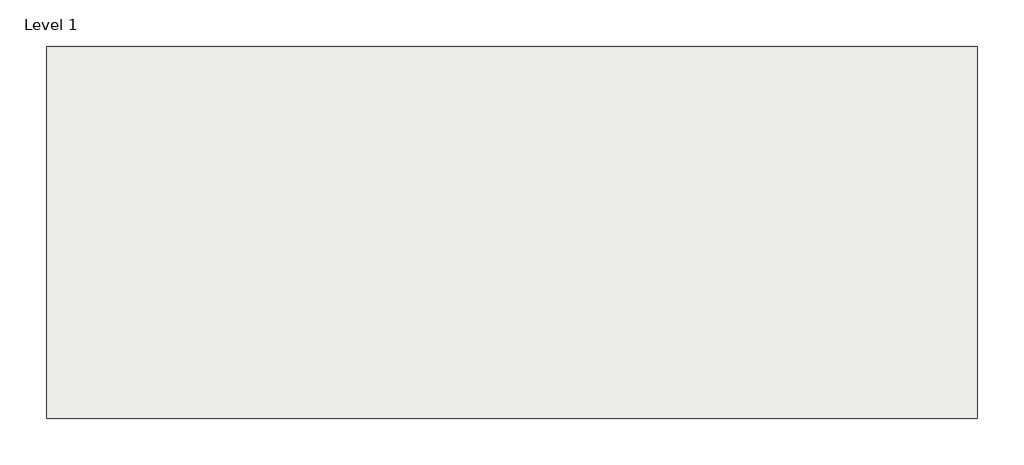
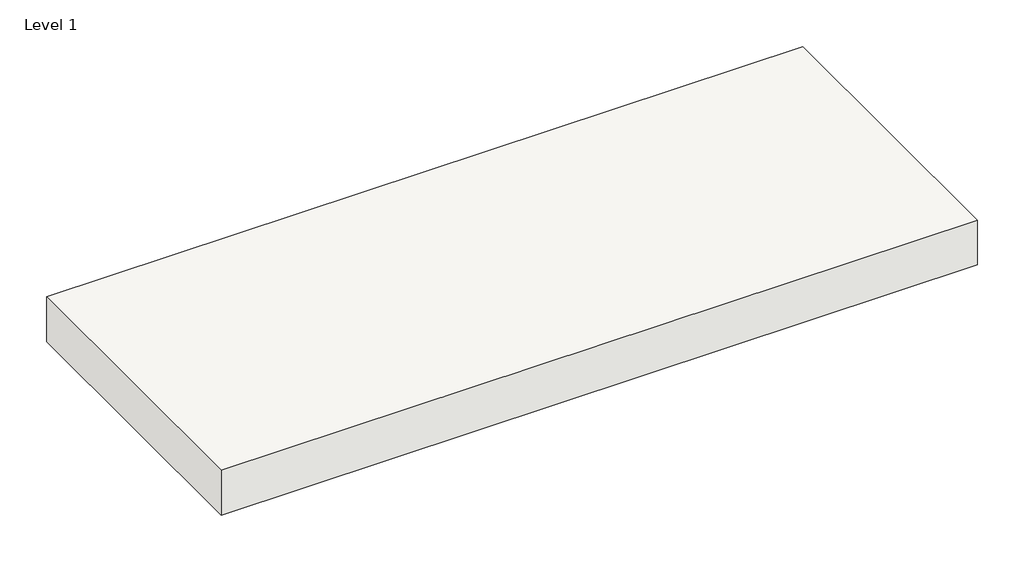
# One storey: 1 slab.
"""IFC4 building model written with IfcOpenShell, lengths in millimetres."""

import ifcopenshell
import ifcopenshell.guid

model = None  # the IFC model being written
_history = None  # IfcOwnerHistory: only IFC2X3 demands one
_inside = {}  # id of a spatial element -> (the spatial element, [elements in it])
_under = {}  # id of a project, library or spatial element -> (it, [spatial elements below it])
_declared = {}  # id of a project -> (the project, [libraries it declares])
_typed = {}  # id of a type object -> (the type object, [elements of that type])
_made_of = {}  # id of a material, layer set ... -> (it, [elements and type objects made of it])


def new_model(schema):
    """Start an empty IFC model of exactly this schema.

    Asked for "IFC4X3", IfcOpenShell would pick the latest addendum, in which some entities
    have other attributes; the version numbers below select the first issue.
    IFC2X3 requires an IfcOwnerHistory on every rooted entity: one is made here for all.
    """
    global model, _history
    if schema == "IFC4X3":
        model = ifcopenshell.file(schema_version=(4, 3, 0, 0))
    else:
        model = ifcopenshell.file(schema=schema)
    _inside.clear()
    _under.clear()
    _declared.clear()
    _typed.clear()
    _made_of.clear()
    _history = None
    if model.schema == "IFC2X3":
        org = make("IfcOrganization", Name="unknown")
        user = make(
            "IfcPersonAndOrganization",
            ThePerson=make("IfcPerson", FamilyName="unknown"),
            TheOrganization=org,
        )
        app = make(
            "IfcApplication",
            ApplicationDeveloper=org,
            Version="unknown",
            ApplicationFullName="unknown",
            ApplicationIdentifier="unknown",
        )
        _history = make(
            "IfcOwnerHistory",
            OwningUser=user,
            OwningApplication=app,
            ChangeAction="ADDED",
            CreationDate=0,
        )
    return model


def make(cls, **values):
    """One entity of the class cls with the attributes given. An attribute that is None is left unset."""
    return model.create_entity(
        cls, **{name: value for name, value in values.items() if value is not None}
    )


def rooted(cls, **values):
    """An entity with a GlobalId (a new one), such as an element, a storey or a relation."""
    return make(cls, GlobalId=ifcopenshell.guid.new(), OwnerHistory=_history, **values)


def si_unit(unit_type, name, prefix=None):
    """IfcSIUnit, for example si_unit("LENGTHUNIT", "METRE", prefix="MILLI")."""
    return make("IfcSIUnit", UnitType=unit_type, Prefix=prefix, Name=name)


def assignment(units):
    """IfcUnitAssignment: the units of a project."""
    return None if units is None else make("IfcUnitAssignment", Units=units)


def point(xyz):
    """IfcCartesianPoint."""
    return None if xyz is None else make("IfcCartesianPoint", Coordinates=xyz)


def direction(xyz):
    """IfcDirection."""
    return None if xyz is None else make("IfcDirection", DirectionRatios=xyz)


def frame(location, z_axis=None, x_axis=None):
    """IfcAxis2Placement3D, a coordinate frame: its origin and axes. An axis left out is left unset."""
    return make(
        "IfcAxis2Placement3D",
        Location=point(location),
        Axis=direction(z_axis),
        RefDirection=direction(x_axis),
    )


def origin():
    """The frame at (0, 0, 0) with its axes left unset."""
    return frame((0.0, 0.0, 0.0))


def place(relative_to, where):
    """IfcLocalPlacement: puts the frame where relative to a parent placement (None: the world)."""
    return make(
        "IfcLocalPlacement", PlacementRelTo=relative_to, RelativePlacement=where
    )


def context(
    kind, dimensions, precision=None, world=None, true_north=None, identifier=None
):
    """IfcGeometricRepresentationContext, for example the 3D "Model" context."""
    return make(
        "IfcGeometricRepresentationContext",
        ContextIdentifier=identifier,
        ContextType=kind,
        CoordinateSpaceDimension=dimensions,
        Precision=precision,
        WorldCoordinateSystem=world,
        TrueNorth=true_north,
    )


def project(units=None, contexts=None):
    """IfcProject with its units and contexts."""
    return rooted(
        "IfcProject",
        Name="project",
        RepresentationContexts=contexts,
        UnitsInContext=assignment(units),
    )


def spatial(cls, under=None, at=None, **own):
    """A site, building, storey or space (cls), placed at a placement, below another one or the project."""
    s = rooted(cls, ObjectPlacement=at, **own)
    if under is not None:
        _under.setdefault(under.id(), (under, []))[1].append(s)
    return s


def polyline(points):
    """IfcPolyline through the points."""
    return make("IfcPolyline", Points=[point(p) for p in points])


def outline(outer, holes=None, kind="AREA"):
    """IfcArbitraryClosedProfileDef: a profile drawn as a closed curve; with holes, ...WithVoids."""
    if holes is None:
        return make("IfcArbitraryClosedProfileDef", ProfileType=kind, OuterCurve=outer)
    return make(
        "IfcArbitraryProfileDefWithVoids",
        ProfileType=kind,
        OuterCurve=outer,
        InnerCurves=holes,
    )


def extrude(swept, where, along, depth):
    """IfcExtrudedAreaSolid: the profile swept, set in the frame where, extruded along a direction by depth."""
    return make(
        "IfcExtrudedAreaSolid",
        SweptArea=swept,
        Position=where,
        ExtrudedDirection=direction(along),
        Depth=depth,
    )


def shape(context_of_items, identifier, shape_type, items):
    """IfcShapeRepresentation: the items that make up one representation, for example the "Body"."""
    return make(
        "IfcShapeRepresentation",
        ContextOfItems=context_of_items,
        RepresentationIdentifier=identifier,
        RepresentationType=shape_type,
        Items=items,
    )


def made_of(thing, what):
    """Note that an element or type object is made of a material, layer set ...; save() writes the relation."""
    if what is not None:
        _made_of.setdefault(what.id(), (what, []))[1].append(thing)
    return thing


def element(
    cls,
    number,
    at=None,
    inside=None,
    cuts=None,
    type_object=None,
    material=None,
    context=None,
    identifier="Body",
    shape_type=None,
    held_by="IfcProductDefinitionShape",
    body=None,
    shapes=None,
    **own,
):
    """One element of the class cls, such as IfcWall. Its Tag is "e" and its number.

    at: its placement. inside: the storey or other place that contains it. cuts: it is an
    opening in that element (IfcRelVoidsElement). A single representation is given by context,
    identifier, shape_type and body (its items); several are given by shapes. held_by: the class
    of the entity that holds the representations. save() writes the other relations.
    """
    e = rooted(cls, Tag="e%d" % number, ObjectPlacement=at, **own)
    if body is not None:
        shapes = [shape(context, identifier, shape_type, body)]
    if shapes is not None:
        e.Representation = make(held_by, Representations=shapes)
    if inside is not None:
        _inside.setdefault(inside.id(), (inside, []))[1].append(e)
    if cuts is not None:
        rooted(
            "IfcRelVoidsElement", RelatingBuildingElement=cuts, RelatedOpeningElement=e
        )
    if type_object is not None:
        _typed.setdefault(type_object.id(), (type_object, []))[1].append(e)
    return made_of(e, material)


def aggregate(whole, parts):
    """IfcRelAggregates: a whole, such as a stair, and the parts it consists of."""
    return rooted("IfcRelAggregates", RelatingObject=whole, RelatedObjects=parts)


def save(model, path):
    """Write the relations noted so far, then the file.

    IfcRelAggregates (storeys below a building ...), IfcRelContainedInSpatialStructure (elements
    in a storey), IfcRelDefinesByType, IfcRelAssociatesMaterial and IfcRelDeclares: one each for
    every whole, place, type object, material and project.
    """
    for whole, parts in _under.values():
        aggregate(whole, parts)
    for where, things in _inside.values():
        rooted(
            "IfcRelContainedInSpatialStructure",
            RelatedElements=things,
            RelatingStructure=where,
        )
    for kind, things in _typed.values():
        rooted("IfcRelDefinesByType", RelatedObjects=things, RelatingType=kind)
    for what, things in _made_of.values():
        rooted("IfcRelAssociatesMaterial", RelatedObjects=things, RelatingMaterial=what)
    for by, libraries in _declared.values():
        rooted("IfcRelDeclares", RelatingContext=by, RelatedDefinitions=libraries)
    model.write(path)


model = new_model("IFC4")

# Units and contexts
model_context = context("Model", 3, world=origin())
ifc_project = project(units=[si_unit("LENGTHUNIT", "METRE", prefix="MILLI")], contexts=[model_context])

# Site, building, storey
site = spatial("IfcSite", under=ifc_project)
building = spatial("IfcBuilding", under=site)
storey = spatial("IfcBuildingStorey", under=building, Name="Level 1", Elevation=0.0)

# Slab
placement = place(None, origin())
element("IfcSlab", 1, ObjectType="Specular", at=placement, inside=storey, context=model_context, shape_type="SweptSolid", body=[
    extrude(outline(polyline([(5506.4279261, 3831.5926078), (5506.4279261, 2002.7926078), (934.4279261, 2002.7926078), (934.4279261, 3831.5926078), (5506.4279261, 3831.5926078)])), frame((0.0, 0.0, -286.54375), z_axis=(0.0, 0.0, 1.0), x_axis=(1.0, 0.0, 0.0)), (0.0, 0.0, 1.0), 286.54375),
])

save(model, "model.ifc")
